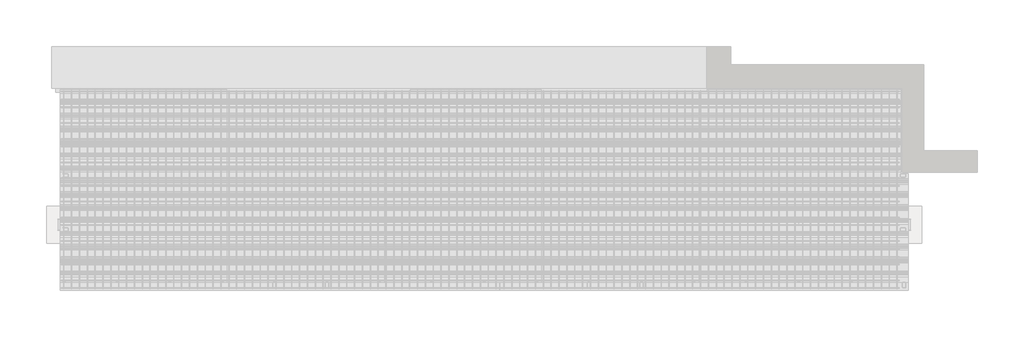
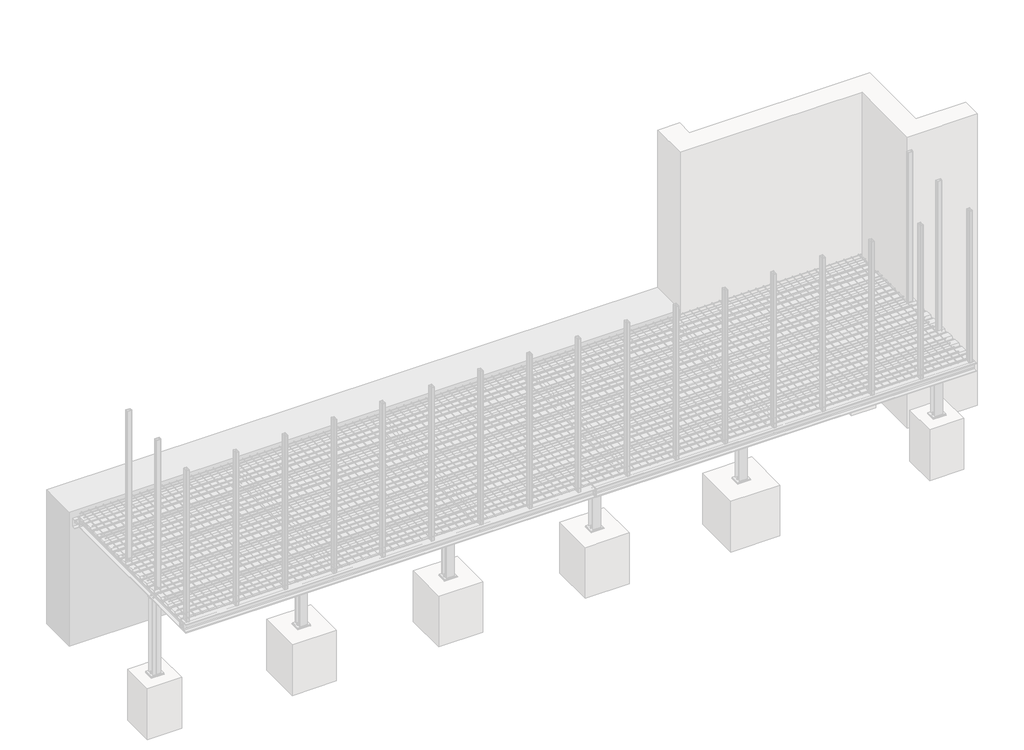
# One storey, part 24 of 36: 25 assemblies.
"""IFC4 building model written with IfcOpenShell, lengths in millimetres."""

from ifc_helpers import new_model, si_unit, point, frame, frame_2d, origin, place, context, project, spatial, polyline, circle_curve, trimmed, segment, composite_curve, outline, extrude, element, save

model = new_model("IFC4")

# Units and contexts
model_context = context("Model", 3, world=origin())
ifc_project = project(units=[si_unit("LENGTHUNIT", "METRE", prefix="MILLI")], contexts=[model_context])

# Site, building, storey
site = spatial("IfcSite", under=ifc_project)
building = spatial("IfcBuilding", under=site)
storey = spatial("IfcBuildingStorey", under=building, Name="Základy", Elevation=-1200.0)

# Assemblies
placement = place(None, origin())
element("IfcElementAssembly", 1, at=placement, inside=storey, context=model_context, shape_type="SweptSolid", body=[
    extrude(outline(composite_curve([segment(polyline([(6073.6, 60.0), (6026.4, 60.0)]), True, "CONTINUOUS"), segment(trimmed(circle_curve(frame_2d((6026.4, 66.4)), 6.4), [point((6026.4, 60.0))], [point((6020.0, 66.4))], False, "CARTESIAN"), True, "CONTINUOUS"), segment(polyline([(6020.0, 66.4), (6020.0, 153.6)]), True, "CONTINUOUS"), segment(trimmed(circle_curve(frame_2d((6026.4, 153.6)), 6.4), [point((6020.0, 153.6))], [point((6026.4, 160.0))], False, "CARTESIAN"), True, "CONTINUOUS"), segment(polyline([(6026.4, 160.0), (6073.6, 160.0)]), True, "CONTINUOUS"), segment(trimmed(circle_curve(frame_2d((6073.6, 153.6)), 6.4), [point((6073.6, 160.0))], [point((6080.0, 153.6))], False, "CARTESIAN"), True, "CONTINUOUS"), segment(polyline([(6080.0, 153.6), (6080.0, 66.4)]), True, "CONTINUOUS"), segment(trimmed(circle_curve(frame_2d((6073.6, 66.4)), 6.4), [point((6080.0, 66.4))], [point((6073.6, 60.0))], False, "CARTESIAN"), True, "CONTINUOUS")], self_intersect=False), holes=[composite_curve([segment(trimmed(circle_curve(frame_2d((6073.6, 66.4)), 3.2), [point((6073.6, 63.2))], [point((6076.8, 66.4))], True, "CARTESIAN"), True, "CONTINUOUS"), segment(polyline([(6076.8, 66.4), (6076.8, 153.6)]), True, "CONTINUOUS"), segment(trimmed(circle_curve(frame_2d((6073.6, 153.6)), 3.2), [point((6076.8, 153.6))], [point((6073.6, 156.8))], True, "CARTESIAN"), True, "CONTINUOUS"), segment(polyline([(6073.6, 156.8), (6026.4, 156.8)]), True, "CONTINUOUS"), segment(trimmed(circle_curve(frame_2d((6026.4, 153.6)), 3.2), [point((6026.4, 156.8))], [point((6023.2, 153.6))], True, "CARTESIAN"), True, "CONTINUOUS"), segment(polyline([(6023.2, 153.6), (6023.2, 66.4)]), True, "CONTINUOUS"), segment(trimmed(circle_curve(frame_2d((6026.4, 66.4)), 3.2), [point((6023.2, 66.4))], [point((6026.4, 63.2))], True, "CARTESIAN"), True, "CONTINUOUS"), segment(polyline([(6026.4, 63.2), (6073.6, 63.2)]), True, "CONTINUOUS")], self_intersect=False)]), frame((0.0, 0.0, -160.0), z_axis=(0.0, 0.0, 1.0), x_axis=(1.0, 0.0, 0.0)), (0.0, 0.0, 1.0), 3320.0),
])
element("IfcElementAssembly", 2, at=placement, inside=storey, context=model_context, shape_type="SweptSolid", body=[
    extrude(outline(composite_curve([segment(polyline([(7073.6, 60.0), (7026.4, 60.0)]), True, "CONTINUOUS"), segment(trimmed(circle_curve(frame_2d((7026.4, 66.4)), 6.4), [point((7026.4, 60.0))], [point((7020.0, 66.4))], False, "CARTESIAN"), True, "CONTINUOUS"), segment(polyline([(7020.0, 66.4), (7020.0, 153.6)]), True, "CONTINUOUS"), segment(trimmed(circle_curve(frame_2d((7026.4, 153.6)), 6.4), [point((7020.0, 153.6))], [point((7026.4, 160.0))], False, "CARTESIAN"), True, "CONTINUOUS"), segment(polyline([(7026.4, 160.0), (7073.6, 160.0)]), True, "CONTINUOUS"), segment(trimmed(circle_curve(frame_2d((7073.6, 153.6)), 6.4), [point((7073.6, 160.0))], [point((7080.0, 153.6))], False, "CARTESIAN"), True, "CONTINUOUS"), segment(polyline([(7080.0, 153.6), (7080.0, 66.4)]), True, "CONTINUOUS"), segment(trimmed(circle_curve(frame_2d((7073.6, 66.4)), 6.4), [point((7080.0, 66.4))], [point((7073.6, 60.0))], False, "CARTESIAN"), True, "CONTINUOUS")], self_intersect=False), holes=[composite_curve([segment(trimmed(circle_curve(frame_2d((7073.6, 66.4)), 3.2), [point((7073.6, 63.2))], [point((7076.8, 66.4))], True, "CARTESIAN"), True, "CONTINUOUS"), segment(polyline([(7076.8, 66.4), (7076.8, 153.6)]), True, "CONTINUOUS"), segment(trimmed(circle_curve(frame_2d((7073.6, 153.6)), 3.2), [point((7076.8, 153.6))], [point((7073.6, 156.8))], True, "CARTESIAN"), True, "CONTINUOUS"), segment(polyline([(7073.6, 156.8), (7026.4, 156.8)]), True, "CONTINUOUS"), segment(trimmed(circle_curve(frame_2d((7026.4, 153.6)), 3.2), [point((7026.4, 156.8))], [point((7023.2, 153.6))], True, "CARTESIAN"), True, "CONTINUOUS"), segment(polyline([(7023.2, 153.6), (7023.2, 66.4)]), True, "CONTINUOUS"), segment(trimmed(circle_curve(frame_2d((7026.4, 66.4)), 3.2), [point((7023.2, 66.4))], [point((7026.4, 63.2))], True, "CARTESIAN"), True, "CONTINUOUS"), segment(polyline([(7026.4, 63.2), (7073.6, 63.2)]), True, "CONTINUOUS")], self_intersect=False)]), frame((0.0, 0.0, -160.0), z_axis=(0.0, 0.0, 1.0), x_axis=(1.0, 0.0, 0.0)), (0.0, 0.0, 1.0), 3320.0),
])
element("IfcElementAssembly", 3, at=placement, inside=storey, context=model_context, shape_type="SweptSolid", body=[
    extrude(outline(composite_curve([segment(polyline([(1200.0, -193.0), (1320.0, -193.0), (1320.0, -201.0), (1274.5, -201.0)]), True, "CONTINUOUS"), segment(trimmed(circle_curve(frame_2d((1274.5, -213.0)), 12.0), [point((1274.5, -201.0))], [point((1262.5, -213.0))], True, "CARTESIAN"), True, "CONTINUOUS"), segment(polyline([(1262.5, -213.0), (1262.5, -287.0)]), True, "CONTINUOUS"), segment(trimmed(circle_curve(frame_2d((1274.5, -287.0)), 12.0), [point((1262.5, -287.0))], [point((1274.5, -299.0))], True, "CARTESIAN"), True, "CONTINUOUS"), segment(polyline([(1274.5, -299.0), (1320.0, -299.0), (1320.0, -307.0), (1200.0, -307.0), (1200.0, -299.0), (1245.5, -299.0)]), True, "CONTINUOUS"), segment(trimmed(circle_curve(frame_2d((1245.5, -287.0)), 12.0), [point((1245.5, -299.0))], [point((1257.5, -287.0))], True, "CARTESIAN"), True, "CONTINUOUS"), segment(polyline([(1257.5, -287.0), (1257.5, -213.0)]), True, "CONTINUOUS"), segment(trimmed(circle_curve(frame_2d((1245.5, -213.0)), 12.0), [point((1257.5, -213.0))], [point((1245.5, -201.0))], True, "CARTESIAN"), True, "CONTINUOUS"), segment(polyline([(1245.5, -201.0), (1200.0, -201.0), (1200.0, -193.0)]), True, "CONTINUOUS")], self_intersect=False)), frame((3160.0, 0.0, 0.0), z_axis=(1.0, 0.0, 0.0), x_axis=(0.0, 1.0, 0.0)), (0.0, 0.0, 1.0), 2780.0),
    extrude(outline(polyline([(5940.0, 1200.0), (5940.0, 1320.0), (5950.0, 1320.0), (5950.0, 1200.0), (5940.0, 1200.0)])), frame((0.0, 0.0, -299.0), z_axis=(0.0, 0.0, 1.0), x_axis=(1.0, 0.0, 0.0)), (0.0, 0.0, 1.0), 98.0),
    extrude(outline(polyline([(3150.0, 1200.0), (3150.0, 1320.0), (3160.0, 1320.0), (3160.0, 1200.0), (3150.0, 1200.0)])), frame((0.0, 0.0, -299.0), z_axis=(0.0, 0.0, 1.0), x_axis=(1.0, 0.0, 0.0)), (0.0, 0.0, 1.0), 98.0),
])
element("IfcElementAssembly", 4, at=placement, inside=storey, context=model_context, shape_type="SweptSolid", body=[
    extrude(outline(polyline([(1802.7875602, -160.0099992), (1772.2875602, -111.5000008), (1637.6975638, -111.5000008), (1607.1975638, -160.0000008), (1552.7875754, -160.0000008), (1522.2875754, -111.5000008), (1387.6975715, -111.5000008), (1357.1975715, -160.0000008), (1302.7875697, -160.0000008), (1272.2875716, -111.5000008), (1137.6975638, -111.5000008), (1107.1975638, -160.0000008), (1052.7875602, -160.0000008), (1022.2875602, -111.5000008), (887.6975638, -111.5000008), (857.1975638, -160.0000008), (802.7875602, -160.0000008), (790.7375724, -139.4300002), (803.1975638, -159.2500008), (856.7875602, -159.2500008), (887.2875602, -110.7500008), (1022.6975638, -110.7500008), (1053.1975638, -159.2500008), (1106.7875754, -159.2500008), (1137.2875754, -110.7500008), (1272.6975715, -110.7500008), (1303.1975695, -159.2500008), (1356.7875716, -159.2500008), (1387.2875678, -110.7500008), (1522.6975638, -110.7500008), (1553.1975638, -159.2500008), (1606.7875602, -159.2500008), (1637.2875602, -110.7500008), (1772.6975638, -110.7500008), (1803.1975638, -159.2500008), (1839.9975821, -160.0000008), (1802.7875602, -160.0099992)])), frame((2960.0, 0.0, 0.0), z_axis=(1.0, 0.0, 0.0), x_axis=(0.0, 1.0, 0.0)), (0.0, 0.0, 1.0), 3180.0),
])
element("IfcElementAssembly", 5, at=placement, inside=storey, context=model_context, shape_type="SweptSolid", body=[
    extrude(outline(polyline([(802.7875602, -160.0099992), (772.2875602, -111.5000008), (637.6975638, -111.5000008), (607.1975638, -160.0000008), (552.7875754, -160.0000008), (522.2875754, -111.5000008), (387.6975715, -111.5000008), (357.1975715, -160.0000008), (302.7875697, -160.0000008), (272.2875716, -111.5000008), (160.0, -111.5000008), (160.0, -110.7500008), (272.6975715, -110.7500008), (303.1975695, -159.2500008), (356.7875716, -159.2500008), (387.2875678, -110.7500008), (522.6975638, -110.7500008), (553.1975638, -159.2500008), (606.7875602, -159.2500008), (637.2875602, -110.7500008), (772.6975638, -110.7500008), (803.1975638, -159.2500008), (839.9975821, -160.0000008), (802.7875602, -160.0099992)])), frame((5960.0, 0.0, 0.0), z_axis=(1.0, 0.0, 0.0), x_axis=(0.0, 1.0, 0.0)), (0.0, 0.0, 1.0), 3180.0),
])
element("IfcElementAssembly", 6, at=placement, inside=storey, context=model_context, shape_type="SweptSolid", body=[
    extrude(outline(composite_curve([segment(trimmed(circle_curve(frame_2d((949.9975821, -57.0)), 4.0), [point((945.9975821, -57.0))], [point((953.9975821, -57.0))], False, "CARTESIAN"), True, "CONTINUOUS"), segment(trimmed(circle_curve(frame_2d((949.9975821, -57.0)), 4.0), [point((953.9975821, -57.0))], [point((945.9975821, -57.0))], False, "CARTESIAN"), True, "CONTINUOUS")], self_intersect=False)), frame((-15.0, 0.0, 0.0), z_axis=(1.0, 0.0, 0.0), x_axis=(0.0, 1.0, 0.0)), (0.0, 0.0, 1.0), 15985.0),
])
element("IfcElementAssembly", 7, at=placement, inside=storey, context=model_context, shape_type="SweptSolid", body=[
    extrude(outline(composite_curve([segment(trimmed(circle_curve(frame_2d((799.9975821, -57.0)), 4.0), [point((795.9975821, -57.0))], [point((803.9975821, -57.0))], False, "CARTESIAN"), True, "CONTINUOUS"), segment(trimmed(circle_curve(frame_2d((799.9975821, -57.0)), 4.0), [point((803.9975821, -57.0))], [point((795.9975821, -57.0))], False, "CARTESIAN"), True, "CONTINUOUS")], self_intersect=False)), frame((-15.0, 0.0, 0.0), z_axis=(1.0, 0.0, 0.0), x_axis=(0.0, 1.0, 0.0)), (0.0, 0.0, 1.0), 15985.0),
])
element("IfcElementAssembly", 8, at=placement, inside=storey, context=model_context, shape_type="SweptSolid", body=[
    extrude(outline(composite_curve([segment(trimmed(circle_curve(frame_2d((649.9975821, -57.0)), 4.0), [point((645.9975821, -57.0))], [point((653.9975821, -57.0))], False, "CARTESIAN"), True, "CONTINUOUS"), segment(trimmed(circle_curve(frame_2d((649.9975821, -57.0)), 4.0), [point((653.9975821, -57.0))], [point((645.9975821, -57.0))], False, "CARTESIAN"), True, "CONTINUOUS")], self_intersect=False)), frame((-15.0, 0.0, 0.0), z_axis=(1.0, 0.0, 0.0), x_axis=(0.0, 1.0, 0.0)), (0.0, 0.0, 1.0), 15985.0),
])
element("IfcElementAssembly", 9, at=placement, inside=storey, context=model_context, shape_type="SweptSolid", body=[
    extrude(outline(composite_curve([segment(trimmed(circle_curve(frame_2d((499.9975821, -57.0)), 4.0), [point((495.9975821, -57.0))], [point((503.9975821, -57.0))], False, "CARTESIAN"), True, "CONTINUOUS"), segment(trimmed(circle_curve(frame_2d((499.9975821, -57.0)), 4.0), [point((503.9975821, -57.0))], [point((495.9975821, -57.0))], False, "CARTESIAN"), True, "CONTINUOUS")], self_intersect=False)), frame((-15.0, 0.0, 0.0), z_axis=(1.0, 0.0, 0.0), x_axis=(0.0, 1.0, 0.0)), (0.0, 0.0, 1.0), 15985.0),
])
element("IfcElementAssembly", 10, at=placement, inside=storey, context=model_context, shape_type="SweptSolid", body=[
    extrude(outline(composite_curve([segment(trimmed(circle_curve(frame_2d((349.9975821, -57.0)), 4.0), [point((345.9975821, -57.0))], [point((353.9975821, -57.0))], False, "CARTESIAN"), True, "CONTINUOUS"), segment(trimmed(circle_curve(frame_2d((349.9975821, -57.0)), 4.0), [point((353.9975821, -57.0))], [point((345.9975821, -57.0))], False, "CARTESIAN"), True, "CONTINUOUS")], self_intersect=False)), frame((-15.0, 0.0, 0.0), z_axis=(1.0, 0.0, 0.0), x_axis=(0.0, 1.0, 0.0)), (0.0, 0.0, 1.0), 15985.0),
])
element("IfcElementAssembly", 11, at=placement, inside=storey, context=model_context, shape_type="SweptSolid", body=[
    extrude(outline(composite_curve([segment(trimmed(circle_curve(frame_2d((199.9975821, -57.0)), 4.0), [point((195.9975821, -57.0))], [point((203.9975821, -57.0))], False, "CARTESIAN"), True, "CONTINUOUS"), segment(trimmed(circle_curve(frame_2d((199.9975821, -57.0)), 4.0), [point((203.9975821, -57.0))], [point((195.9975821, -57.0))], False, "CARTESIAN"), True, "CONTINUOUS")], self_intersect=False)), frame((-15.0, 0.0, 0.0), z_axis=(1.0, 0.0, 0.0), x_axis=(0.0, 1.0, 0.0)), (0.0, 0.0, 1.0), 15985.0),
])
element("IfcElementAssembly", 12, at=placement, inside=storey, context=model_context, shape_type="SweptSolid", body=[
    extrude(outline(composite_curve([segment(trimmed(circle_curve(frame_2d((49.9975821, -57.0)), 4.0), [point((45.9975821, -57.0))], [point((53.9975821, -57.0))], False, "CARTESIAN"), True, "CONTINUOUS"), segment(trimmed(circle_curve(frame_2d((49.9975821, -57.0)), 4.0), [point((53.9975821, -57.0))], [point((45.9975821, -57.0))], False, "CARTESIAN"), True, "CONTINUOUS")], self_intersect=False)), frame((-15.0, 0.0, 0.0), z_axis=(1.0, 0.0, 0.0), x_axis=(0.0, 1.0, 0.0)), (0.0, 0.0, 1.0), 15985.0),
])
element("IfcElementAssembly", 13, at=placement, inside=storey, context=model_context, shape_type="SweptSolid", body=[
    extrude(outline(composite_curve([segment(trimmed(circle_curve(frame_2d((-49.0, 4077.5)), 4.0), [point((-49.0, 4073.5))], [point((-49.0, 4081.5))], False, "CARTESIAN"), True, "CONTINUOUS"), segment(trimmed(circle_curve(frame_2d((-49.0, 4077.5)), 4.0), [point((-49.0, 4081.5))], [point((-49.0, 4073.5))], False, "CARTESIAN"), True, "CONTINUOUS")], self_intersect=False)), frame((0.0, 35.0, 0.0), z_axis=(0.0, 1.0, 0.0), x_axis=(0.0, 0.0, 1.0)), (0.0, 0.0, 1.0), 3780.0),
])
element("IfcElementAssembly", 14, at=placement, inside=storey, context=model_context, shape_type="SweptSolid", body=[
    extrude(outline(composite_curve([segment(trimmed(circle_curve(frame_2d((-49.0, 4227.5)), 4.0), [point((-49.0, 4223.5))], [point((-49.0, 4231.5))], False, "CARTESIAN"), True, "CONTINUOUS"), segment(trimmed(circle_curve(frame_2d((-49.0, 4227.5)), 4.0), [point((-49.0, 4231.5))], [point((-49.0, 4223.5))], False, "CARTESIAN"), True, "CONTINUOUS")], self_intersect=False)), frame((0.0, 35.0, 0.0), z_axis=(0.0, 1.0, 0.0), x_axis=(0.0, 0.0, 1.0)), (0.0, 0.0, 1.0), 3780.0),
])
element("IfcElementAssembly", 15, at=placement, inside=storey, context=model_context, shape_type="SweptSolid", body=[
    extrude(outline(composite_curve([segment(trimmed(circle_curve(frame_2d((-49.0, 4377.5)), 4.0), [point((-49.0, 4373.5))], [point((-49.0, 4381.5))], False, "CARTESIAN"), True, "CONTINUOUS"), segment(trimmed(circle_curve(frame_2d((-49.0, 4377.5)), 4.0), [point((-49.0, 4381.5))], [point((-49.0, 4373.5))], False, "CARTESIAN"), True, "CONTINUOUS")], self_intersect=False)), frame((0.0, 35.0, 0.0), z_axis=(0.0, 1.0, 0.0), x_axis=(0.0, 0.0, 1.0)), (0.0, 0.0, 1.0), 3780.0),
])
element("IfcElementAssembly", 16, at=placement, inside=storey, context=model_context, shape_type="SweptSolid", body=[
    extrude(outline(composite_curve([segment(trimmed(circle_curve(frame_2d((-49.0, 4527.5)), 4.0), [point((-49.0, 4523.5))], [point((-49.0, 4531.5))], False, "CARTESIAN"), True, "CONTINUOUS"), segment(trimmed(circle_curve(frame_2d((-49.0, 4527.5)), 4.0), [point((-49.0, 4531.5))], [point((-49.0, 4523.5))], False, "CARTESIAN"), True, "CONTINUOUS")], self_intersect=False)), frame((0.0, 35.0, 0.0), z_axis=(0.0, 1.0, 0.0), x_axis=(0.0, 0.0, 1.0)), (0.0, 0.0, 1.0), 3780.0),
])
element("IfcElementAssembly", 17, at=placement, inside=storey, context=model_context, shape_type="SweptSolid", body=[
    extrude(outline(composite_curve([segment(trimmed(circle_curve(frame_2d((-49.0, 4677.5)), 4.0), [point((-49.0, 4673.5))], [point((-49.0, 4681.5))], False, "CARTESIAN"), True, "CONTINUOUS"), segment(trimmed(circle_curve(frame_2d((-49.0, 4677.5)), 4.0), [point((-49.0, 4681.5))], [point((-49.0, 4673.5))], False, "CARTESIAN"), True, "CONTINUOUS")], self_intersect=False)), frame((0.0, 35.0, 0.0), z_axis=(0.0, 1.0, 0.0), x_axis=(0.0, 0.0, 1.0)), (0.0, 0.0, 1.0), 3780.0),
])
element("IfcElementAssembly", 18, at=placement, inside=storey, context=model_context, shape_type="SweptSolid", body=[
    extrude(outline(composite_curve([segment(trimmed(circle_curve(frame_2d((-49.0, 4827.5)), 4.0), [point((-49.0, 4823.5))], [point((-49.0, 4831.5))], False, "CARTESIAN"), True, "CONTINUOUS"), segment(trimmed(circle_curve(frame_2d((-49.0, 4827.5)), 4.0), [point((-49.0, 4831.5))], [point((-49.0, 4823.5))], False, "CARTESIAN"), True, "CONTINUOUS")], self_intersect=False)), frame((0.0, 35.0, 0.0), z_axis=(0.0, 1.0, 0.0), x_axis=(0.0, 0.0, 1.0)), (0.0, 0.0, 1.0), 3780.0),
])
element("IfcElementAssembly", 19, at=placement, inside=storey, context=model_context, shape_type="SweptSolid", body=[
    extrude(outline(composite_curve([segment(trimmed(circle_curve(frame_2d((-49.0, 4977.5)), 4.0), [point((-49.0, 4973.5))], [point((-49.0, 4981.5))], False, "CARTESIAN"), True, "CONTINUOUS"), segment(trimmed(circle_curve(frame_2d((-49.0, 4977.5)), 4.0), [point((-49.0, 4981.5))], [point((-49.0, 4973.5))], False, "CARTESIAN"), True, "CONTINUOUS")], self_intersect=False)), frame((0.0, 35.0, 0.0), z_axis=(0.0, 1.0, 0.0), x_axis=(0.0, 0.0, 1.0)), (0.0, 0.0, 1.0), 3780.0),
])
element("IfcElementAssembly", 20, at=placement, inside=storey, context=model_context, shape_type="SweptSolid", body=[
    extrude(outline(composite_curve([segment(trimmed(circle_curve(frame_2d((-49.0, 5127.5)), 4.0), [point((-49.0, 5123.5))], [point((-49.0, 5131.5))], False, "CARTESIAN"), True, "CONTINUOUS"), segment(trimmed(circle_curve(frame_2d((-49.0, 5127.5)), 4.0), [point((-49.0, 5131.5))], [point((-49.0, 5123.5))], False, "CARTESIAN"), True, "CONTINUOUS")], self_intersect=False)), frame((0.0, 35.0, 0.0), z_axis=(0.0, 1.0, 0.0), x_axis=(0.0, 0.0, 1.0)), (0.0, 0.0, 1.0), 3780.0),
])
element("IfcElementAssembly", 21, at=placement, inside=storey, context=model_context, shape_type="SweptSolid", body=[
    extrude(outline(composite_curve([segment(trimmed(circle_curve(frame_2d((-49.0, 5277.5)), 4.0), [point((-49.0, 5273.5))], [point((-49.0, 5281.5))], False, "CARTESIAN"), True, "CONTINUOUS"), segment(trimmed(circle_curve(frame_2d((-49.0, 5277.5)), 4.0), [point((-49.0, 5281.5))], [point((-49.0, 5273.5))], False, "CARTESIAN"), True, "CONTINUOUS")], self_intersect=False)), frame((0.0, 35.0, 0.0), z_axis=(0.0, 1.0, 0.0), x_axis=(0.0, 0.0, 1.0)), (0.0, 0.0, 1.0), 3780.0),
])
element("IfcElementAssembly", 22, at=placement, inside=storey, context=model_context, shape_type="SweptSolid", body=[
    extrude(outline(composite_curve([segment(trimmed(circle_curve(frame_2d((-49.0, 5427.5)), 4.0), [point((-49.0, 5423.5))], [point((-49.0, 5431.5))], False, "CARTESIAN"), True, "CONTINUOUS"), segment(trimmed(circle_curve(frame_2d((-49.0, 5427.5)), 4.0), [point((-49.0, 5431.5))], [point((-49.0, 5423.5))], False, "CARTESIAN"), True, "CONTINUOUS")], self_intersect=False)), frame((0.0, 35.0, 0.0), z_axis=(0.0, 1.0, 0.0), x_axis=(0.0, 0.0, 1.0)), (0.0, 0.0, 1.0), 3780.0),
])
element("IfcElementAssembly", 23, at=placement, inside=storey, context=model_context, shape_type="SweptSolid", body=[
    extrude(outline(composite_curve([segment(trimmed(circle_curve(frame_2d((-49.0, 5577.5)), 4.0), [point((-49.0, 5573.5))], [point((-49.0, 5581.5))], False, "CARTESIAN"), True, "CONTINUOUS"), segment(trimmed(circle_curve(frame_2d((-49.0, 5577.5)), 4.0), [point((-49.0, 5581.5))], [point((-49.0, 5573.5))], False, "CARTESIAN"), True, "CONTINUOUS")], self_intersect=False)), frame((0.0, 35.0, 0.0), z_axis=(0.0, 1.0, 0.0), x_axis=(0.0, 0.0, 1.0)), (0.0, 0.0, 1.0), 3780.0),
])
element("IfcElementAssembly", 24, at=placement, inside=storey, context=model_context, shape_type="SweptSolid", body=[
    extrude(outline(composite_curve([segment(trimmed(circle_curve(frame_2d((-49.0, 5727.5)), 4.0), [point((-49.0, 5723.5))], [point((-49.0, 5731.5))], False, "CARTESIAN"), True, "CONTINUOUS"), segment(trimmed(circle_curve(frame_2d((-49.0, 5727.5)), 4.0), [point((-49.0, 5731.5))], [point((-49.0, 5723.5))], False, "CARTESIAN"), True, "CONTINUOUS")], self_intersect=False)), frame((0.0, 35.0, 0.0), z_axis=(0.0, 1.0, 0.0), x_axis=(0.0, 0.0, 1.0)), (0.0, 0.0, 1.0), 3780.0),
])
element("IfcElementAssembly", 25, at=placement, inside=storey, context=model_context, shape_type="SweptSolid", body=[
    extrude(outline(composite_curve([segment(trimmed(circle_curve(frame_2d((-49.0, 5877.5)), 4.0), [point((-49.0, 5873.5))], [point((-49.0, 5881.5))], False, "CARTESIAN"), True, "CONTINUOUS"), segment(trimmed(circle_curve(frame_2d((-49.0, 5877.5)), 4.0), [point((-49.0, 5881.5))], [point((-49.0, 5873.5))], False, "CARTESIAN"), True, "CONTINUOUS")], self_intersect=False)), frame((0.0, 35.0, 0.0), z_axis=(0.0, 1.0, 0.0), x_axis=(0.0, 0.0, 1.0)), (0.0, 0.0, 1.0), 3780.0),
])

save(model, "model.ifc")
